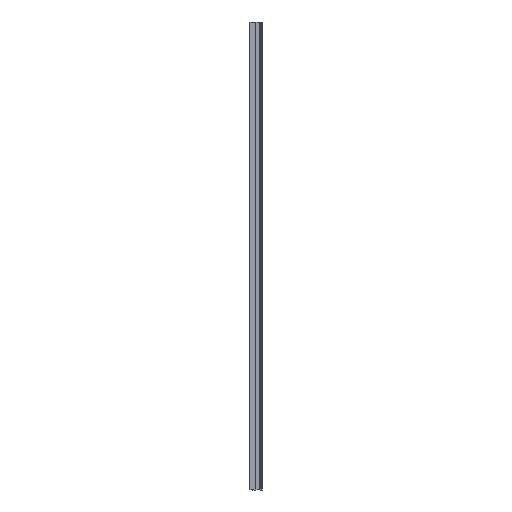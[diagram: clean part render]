
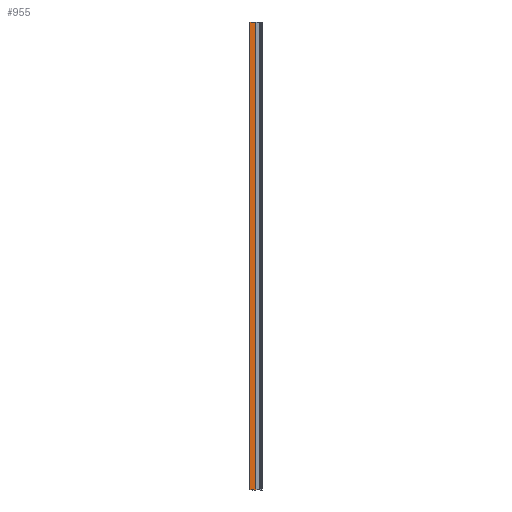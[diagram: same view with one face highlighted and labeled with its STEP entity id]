
A CAD part, left-side view. The second image highlights one B-rep face of the part: STEP entity #955.
In plain terms, the highlighted planar face has unit normal (-1, 0, 0).
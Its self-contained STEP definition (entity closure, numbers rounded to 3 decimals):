
#16 = VERTEX_POINT ( 'NONE', #972 ) ;
#48 = DIRECTION ( 'NONE',  ( 0., 0., -1. ) ) ;
#101 = CARTESIAN_POINT ( 'NONE',  ( 0., 1., 0. ) ) ;
#217 = LINE ( 'NONE', #611, #871 ) ;
#237 = CARTESIAN_POINT ( 'NONE',  ( 0., 38.1, 3048. ) ) ;
#271 = LINE ( 'NONE', #1153, #1152 ) ;
#495 = EDGE_LOOP ( 'NONE', ( #1051, #1180, #643, #1098 ) ) ;
#571 = CARTESIAN_POINT ( 'NONE',  ( 0., 38.1, 3048. ) ) ;
#587 = EDGE_CURVE ( 'NONE', #1200, #1236, #217, .T. ) ;
#611 = CARTESIAN_POINT ( 'NONE',  ( 0., 1., 0. ) ) ;
#643 = ORIENTED_EDGE ( 'NONE', *, *, #1410, .F. ) ;
#644 = CARTESIAN_POINT ( 'NONE',  ( 0., 1., 3048. ) ) ;
#775 = CARTESIAN_POINT ( 'NONE',  ( 0., 38.1, 0. ) ) ;
#871 = VECTOR ( 'NONE', #1402, 1000. ) ;
#877 = VECTOR ( 'NONE', #946, 1000. ) ;
#946 = DIRECTION ( 'NONE',  ( 0., 0., -1. ) ) ;
#955 = ADVANCED_FACE ( 'NONE', ( #1319 ), #1247, .F. ) ;
#972 = CARTESIAN_POINT ( 'NONE',  ( 0., 1., 3048. ) ) ;
#975 = CARTESIAN_POINT ( 'NONE',  ( 0., 1., 3048. ) ) ;
#1051 = ORIENTED_EDGE ( 'NONE', *, *, #587, .T. ) ;
#1069 = DIRECTION ( 'NONE',  ( 0., -1., 0. ) ) ;
#1098 = ORIENTED_EDGE ( 'NONE', *, *, #1197, .T. ) ;
#1128 = EDGE_CURVE ( 'NONE', #16, #1236, #1263, .T. ) ;
#1152 = VECTOR ( 'NONE', #1069, 1000. ) ;
#1153 = CARTESIAN_POINT ( 'NONE',  ( 0., 1., 3048. ) ) ;
#1180 = ORIENTED_EDGE ( 'NONE', *, *, #1128, .F. ) ;
#1197 = EDGE_CURVE ( 'NONE', #1444, #1200, #1427, .T. ) ;
#1200 = VERTEX_POINT ( 'NONE', #775 ) ;
#1205 = DIRECTION ( 'NONE',  ( 0., 0., -1. ) ) ;
#1236 = VERTEX_POINT ( 'NONE', #101 ) ;
#1247 = PLANE ( 'NONE',  #1429 ) ;
#1263 = LINE ( 'NONE', #975, #1333 ) ;
#1319 = FACE_OUTER_BOUND ( 'NONE', #495, .T. ) ;
#1333 = VECTOR ( 'NONE', #1205, 1000. ) ;
#1391 = DIRECTION ( 'NONE',  ( 1., 0., 0. ) ) ;
#1402 = DIRECTION ( 'NONE',  ( 0., -1., 0. ) ) ;
#1410 = EDGE_CURVE ( 'NONE', #1444, #16, #271, .T. ) ;
#1427 = LINE ( 'NONE', #571, #877 ) ;
#1429 = AXIS2_PLACEMENT_3D ( 'NONE', #644, #1391, #48 ) ;
#1444 = VERTEX_POINT ( 'NONE', #237 ) ;
